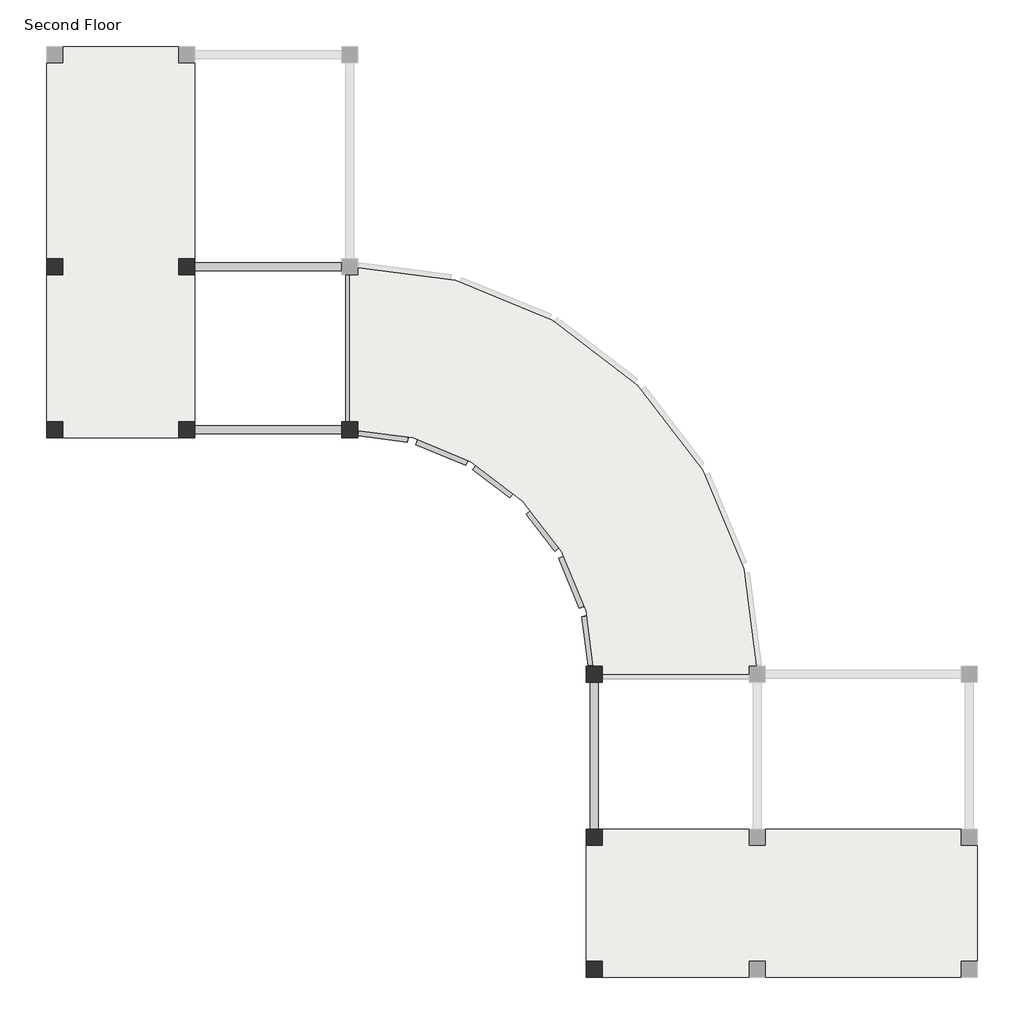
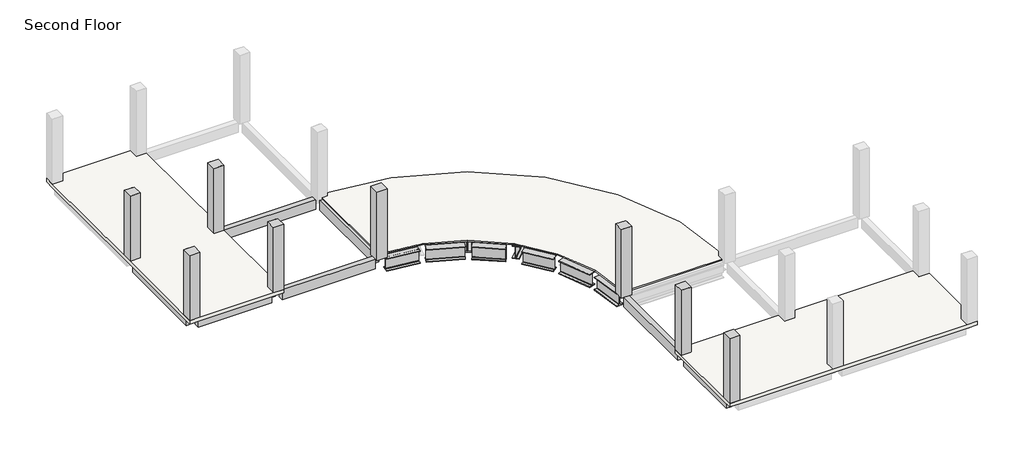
# One storey, part 1 of 2: 18 beams, 16 columns, 3 slabs.
"""IFC4 building model written with IfcOpenShell, lengths in millimetres."""

from ifc_helpers import new_model, si_unit, frame, origin, place, context, project, spatial, polyline, outline, extrude, faceted_brep, transform, mapped, element, save
from components import w760x350_12c19f72, w760x350_7ec89315, w760x350_d8cf7d22, w760x350_981adb13, w760x350_e8c7bbcb, w760x350_b2b244ea, w760x350_d152c47d, w760x350_c276092f

model = new_model("IFC4")

# Units and contexts
model_context = context("Model", 3, world=origin())
ifc_project = project(units=[si_unit("LENGTHUNIT", "METRE", prefix="MILLI")], contexts=[model_context])

# Site, building, storey
site = spatial("IfcSite", under=ifc_project)
building = spatial("IfcBuilding", under=site)
storey = spatial("IfcBuildingStorey", under=building, Name="Second Floor", Elevation=3048.0)

# Beams
placement = place(None, origin())
element("IfcBeam", 1, ObjectType="M_Concrete-Rectangular Beam : 300 x 600mm", at=placement, inside=storey, context=model_context, shape_type="SweptSolid", body=[
    extrude(outline(polyline([(-16304.9035319, -3812.8363965), (-16304.9035319, -3512.8363965), (-10808.9035319, -3512.8363965), (-10808.9035319, -3812.8363965), (-16304.9035319, -3812.8363965)])), frame((0.0, 0.0, 2448.0), z_axis=(0.0, 0.0, 1.0), x_axis=(1.0, 0.0, 0.0)), (0.0, 0.0, 1.0), 600.0),
])
element("IfcBeam", 2, ObjectType="M_Concrete-Rectangular Beam : 300 x 600mm", at=placement, inside=storey, context=model_context, shape_type="SweptSolid", body=[
    extrude(outline(polyline([(-21244.300634, -3812.8363965), (-21244.300634, -3512.8363965), (-16904.9035319, -3512.8363965), (-16904.9035319, -3812.8363965), (-21244.300634, -3812.8363965)])), frame((0.0, 0.0, 2448.0), z_axis=(0.0, 0.0, 1.0), x_axis=(1.0, 0.0, 0.0)), (0.0, 0.0, 1.0), 510.0),
])
element("IfcBeam", 3, ObjectType="M_Concrete-Rectangular Beam : 300 x 600mm", at=placement, inside=storey, context=model_context, shape_type="SweptSolid", body=[
    extrude(outline(polyline([(-16304.9035319, -9908.8363965), (-16304.9035319, -9608.8363965), (-10808.9035319, -9608.8363965), (-10808.9035319, -9908.8363965), (-16304.9035319, -9908.8363965)])), frame((0.0, 0.0, 2448.0), z_axis=(0.0, 0.0, 1.0), x_axis=(1.0, 0.0, 0.0)), (0.0, 0.0, 1.0), 600.0),
])
element("IfcBeam", 4, ObjectType="M_Concrete-Rectangular Beam : 300 x 600mm", at=placement, inside=storey, context=model_context, shape_type="SweptSolid", body=[
    extrude(outline(polyline([(-21244.300634, -9908.8363965), (-21244.300634, -9608.8363965), (-16904.9035319, -9608.8363965), (-16904.9035319, -9908.8363965), (-21244.300634, -9908.8363965)])), frame((0.0, 0.0, 2448.0), z_axis=(0.0, 0.0, 1.0), x_axis=(1.0, 0.0, 0.0)), (0.0, 0.0, 1.0), 510.0),
])
element("IfcBeam", 5, ObjectType="M_Concrete-Rectangular Beam : 300 x 600mm", at=placement, inside=storey, context=model_context, shape_type="SweptSolid", body=[
    extrude(outline(polyline([(-21394.300634, -9458.8363965), (-21694.300634, -9458.8363965), (-21694.300634, -3962.8363965), (-21394.300634, -3962.8363965), (-21394.300634, -9458.8363965)])), frame((0.0, 0.0, 2448.0), z_axis=(0.0, 0.0, 1.0), x_axis=(1.0, 0.0, 0.0)), (0.0, 0.0, 1.0), 510.0),
])
element("IfcBeam", 6, ObjectType="M_Concrete-Rectangular Beam : 300 x 600mm", at=placement, inside=storey, context=model_context, shape_type="SweptSolid", body=[
    extrude(outline(polyline([(-16454.9035319, -9458.8363965), (-16754.9035319, -9458.8363965), (-16754.9035319, -3962.8363965), (-16454.9035319, -3962.8363965), (-16454.9035319, -9458.8363965)])), frame((0.0, 0.0, 2448.0), z_axis=(0.0, 0.0, 1.0), x_axis=(1.0, 0.0, 0.0)), (0.0, 0.0, 1.0), 510.0),
])
element("IfcBeam", 7, ObjectType="M_Concrete-Rectangular Beam : 300 x 600mm", at=placement, inside=storey, context=model_context, shape_type="SweptSolid", body=[
    extrude(outline(polyline([(-10358.9035319, -9458.8363965), (-10658.9035319, -9458.8363965), (-10658.9035319, -3962.8363965), (-10358.9035319, -3962.8363965), (-10358.9035319, -9458.8363965)])), frame((0.0, 0.0, 2448.0), z_axis=(0.0, 0.0, 1.0), x_axis=(1.0, 0.0, 0.0)), (0.0, 0.0, 1.0), 600.0),
])
element("IfcBeam", 8, ObjectType="M_Concrete-Rectangular Beam : 300 x 600mm", at=placement, inside=storey, context=model_context, shape_type="SweptSolid", body=[
    extrude(outline(polyline([(-1214.9035319, -24698.8363965), (-1514.9035319, -24698.8363965), (-1514.9035319, -19202.8363965), (-1214.9035319, -19202.8363965), (-1214.9035319, -24698.8363965)])), frame((0.0, 0.0, 2448.0), z_axis=(0.0, 0.0, 1.0), x_axis=(1.0, 0.0, 0.0)), (0.0, 0.0, 1.0), 600.0),
])
element("IfcBeam", 9, ObjectType="M_Concrete-Rectangular Beam : 300 x 600mm", at=placement, inside=storey, context=model_context, shape_type="SweptSolid", body=[
    extrude(outline(polyline([(-1214.9035319, -29638.2334986), (-1514.9035319, -29638.2334986), (-1514.9035319, -25298.8363965), (-1214.9035319, -25298.8363965), (-1214.9035319, -29638.2334986)])), frame((0.0, 0.0, 2448.0), z_axis=(0.0, 0.0, 1.0), x_axis=(1.0, 0.0, 0.0)), (0.0, 0.0, 1.0), 510.0),
])
w760x350_shape = w760x350_12c19f72(model_context)
element("IfcBeam", 10, ObjectType="M_W-Wide Flange : W760X350", at=placement, inside=storey, context=model_context, shape_type="MappedRepresentation", body=[
    mapped(w760x350_shape, transform((-5016.7075479, -11695.182511, 2523.5), x_axis=(-0.7953971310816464, 0.6060886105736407, 0.0), y_axis=(-0.6060886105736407, -0.7953971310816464, 0.0), z_axis=(0.0, 0.0, 1.0))),
])
w760x350_2_shape = w760x350_7ec89315(model_context)
element("IfcBeam", 11, ObjectType="M_W-Wide Flange : W760X350", at=placement, inside=storey, context=model_context, shape_type="MappedRepresentation", body=[
    mapped(w760x350_2_shape, transform((-7066.2790773, -10511.8618368, 2523.5), x_axis=(-0.9251619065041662, 0.37957271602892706, 0.0), y_axis=(-0.37957271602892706, -0.9251619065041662, 0.0), z_axis=(0.0, 0.0, 1.0))),
])
w760x350_3_shape = w760x350_d8cf7d22(model_context)
element("IfcBeam", 12, ObjectType="M_W-Wide Flange : W760X350", at=placement, inside=storey, context=model_context, shape_type="MappedRepresentation", body=[
    mapped(w760x350_3_shape, transform((-9325.5828576, -9914.6235187, 2523.5), x_axis=(-0.99144486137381, 0.13052619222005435, 0.0), y_axis=(-0.13052619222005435, -0.99144486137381, 0.0), z_axis=(0.0, 0.0, 1.0))),
])
w760x350_4_shape = w760x350_981adb13(model_context)
element("IfcBeam", 13, ObjectType="M_W-Wide Flange : W760X350", at=placement, inside=storey, context=model_context, shape_type="MappedRepresentation", body=[
    mapped(w760x350_4_shape, transform((-1520.6906541, -17719.5157223, 2523.5), x_axis=(-0.1305261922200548, 0.99144486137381, 0.0), y_axis=(-0.99144486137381, -0.1305261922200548, 0.0), z_axis=(0.0, 0.0, 1.0))),
])
element("IfcBeam", 14, ObjectType="M_W-Wide Flange : W760X350", at=placement, inside=storey, context=model_context, shape_type="MappedRepresentation", body=[
    mapped(w760x350_4_shape, transform((-9325.5828576, -9914.6235187, 2523.5), x_axis=(0.9914448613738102, -0.1305261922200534, 0.0), y_axis=(0.1305261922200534, 0.9914448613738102, 0.0), z_axis=(0.0, 0.0, 1.0))),
])
w760x350_5_shape = w760x350_e8c7bbcb(model_context)
element("IfcBeam", 15, ObjectType="M_W-Wide Flange : W760X350", at=placement, inside=storey, context=model_context, shape_type="MappedRepresentation", body=[
    mapped(w760x350_5_shape, transform((-3316.5431822, -13383.9441929, 2523.5), x_axis=(-0.6087614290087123, 0.7933533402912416, 0.0), y_axis=(-0.7933533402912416, -0.6087614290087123, 0.0), z_axis=(0.0, 0.0, 1.0))),
])
w760x350_6_shape = w760x350_b2b244ea(model_context)
element("IfcBeam", 16, ObjectType="M_W-Wide Flange : W760X350", at=placement, inside=storey, context=model_context, shape_type="MappedRepresentation", body=[
    mapped(w760x350_6_shape, transform((-2133.222508, -15433.5157223, 2523.5), x_axis=(-0.38268343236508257, 0.9238795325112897, 0.0), y_axis=(-0.9238795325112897, -0.38268343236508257, 0.0), z_axis=(0.0, 0.0, 1.0))),
])
w760x350_7_shape = w760x350_d152c47d(model_context)
element("IfcBeam", 17, ObjectType="M_W-Wide Flange : W760X350", at=placement, inside=storey, context=model_context, shape_type="MappedRepresentation", body=[
    mapped(w760x350_7_shape, transform((-4464.9452009, -8311.3279993, 2523.5), x_axis=(0.5000000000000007, 0.8660254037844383, 0.0), y_axis=(-0.8660254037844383, 0.5000000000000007, 0.0), z_axis=(0.0, 0.0, 1.0))),
])
w760x350_8_shape = w760x350_c276092f(model_context)
element("IfcBeam", 18, ObjectType="M_W-Wide Flange : W760X350", at=placement, inside=storey, context=model_context, shape_type="MappedRepresentation", body=[
    mapped(w760x350_8_shape, transform((-1887.8576556, -10281.7905203, 2523.5), x_axis=(0.7071067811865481, 0.7071067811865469, 0.0), y_axis=(-0.7071067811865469, 0.7071067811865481, 0.0), z_axis=(0.0, 0.0, 1.0))),
])

# Columns
element("IfcColumn", 19, ObjectType="M_Concrete-Rectangular-Column : 600 x 600mm", at=placement, inside=storey, context=model_context, shape_type="SweptSolid", body=[
    extrude(outline(polyline([(-21844.300634, -10058.8363965), (-21844.300634, -9458.8363965), (-21244.300634, -9458.8363965), (-21244.300634, -10058.8363965), (-21844.300634, -10058.8363965)])), frame((0.0, 0.0, 3168.0), z_axis=(0.0, 0.0, 1.0), x_axis=(1.0, 0.0, 0.0)), (0.0, 0.0, 1.0), 4057.0),
])
element("IfcColumn", 20, ObjectType="M_Concrete-Rectangular-Column : 600 x 600mm", at=placement, inside=storey, context=model_context, shape_type="SweptSolid", body=[
    extrude(outline(polyline([(-21844.300634, -3962.8363965), (-21844.300634, -3362.8363965), (-21244.300634, -3362.8363965), (-21244.300634, -3962.8363965), (-21844.300634, -3962.8363965)])), frame((0.0, 0.0, 3168.0), z_axis=(0.0, 0.0, 1.0), x_axis=(1.0, 0.0, 0.0)), (0.0, 0.0, 1.0), 4057.0),
])
element("IfcColumn", 21, ObjectType="M_Concrete-Rectangular-Column : 600 x 600mm", at=placement, inside=storey, context=model_context, shape_type="SweptSolid", body=[
    extrude(outline(polyline([(-16904.9035319, -10058.8363965), (-16904.9035319, -9458.8363965), (-16304.9035319, -9458.8363965), (-16304.9035319, -10058.8363965), (-16904.9035319, -10058.8363965)])), frame((0.0, 0.0, 3168.0), z_axis=(0.0, 0.0, 1.0), x_axis=(1.0, 0.0, 0.0)), (0.0, 0.0, 1.0), 4057.0),
])
element("IfcColumn", 22, ObjectType="M_Concrete-Rectangular-Column : 600 x 600mm", at=placement, inside=storey, context=model_context, shape_type="SweptSolid", body=[
    extrude(outline(polyline([(-16904.9035319, -3962.8363965), (-16904.9035319, -3362.8363965), (-16304.9035319, -3362.8363965), (-16304.9035319, -3962.8363965), (-16904.9035319, -3962.8363965)])), frame((0.0, 0.0, 3168.0), z_axis=(0.0, 0.0, 1.0), x_axis=(1.0, 0.0, 0.0)), (0.0, 0.0, 1.0), 4057.0),
])
element("IfcColumn", 23, ObjectType="M_Concrete-Rectangular-Column : 600 x 600mm", at=placement, inside=storey, context=model_context, shape_type="Brep", body=[
    faceted_brep([(-10808.9035319, -10058.8363965, 3048.0), (-10808.9035319, -9458.8363965, 3048.0), (-10208.9035319, -9458.8363965, 3048.0), (-10208.9035319, -10058.8363965, 3048.0), (-10808.9035319, -10058.8363965, 7315.0), (-10808.9035319, -9458.8363965, 7315.0), (-10208.9035319, -9458.8363965, 7315.0), (-10208.9035319, -9458.8363965, 3168.0), (-10508.9035319, -9458.8363965, 3168.0), (-10508.9035319, -9458.8363965, 3093.0), (-10208.9035319, -9458.8363965, 3093.0), (-10208.9035319, -9798.3321458, 3093.0), (-10208.9035319, -9798.3321458, 3168.0), (-10208.9035319, -10058.8363965, 7315.0), (-10508.9035319, -9758.8363965, 3093.0), (-10508.9035319, -9758.8363965, 3168.0)], [[[0, 1, 2, 3]], [[1, 0, 4, 5]], [[2, 1, 5, 6, 7, 8, 9, 10]], [[3, 2, 10, 11, 12, 7, 6, 13]], [[0, 3, 13, 4]], [[5, 4, 13, 6]], [[9, 14, 11, 10]], [[12, 15, 8, 7]], [[14, 15, 12, 11]], [[15, 14, 9, 8]]]),
])
element("IfcColumn", 24, ObjectType="M_Concrete-Rectangular-Column : 600 x 600mm", at=placement, inside=storey, context=model_context, shape_type="Brep", body=[
    faceted_brep([(-21844.300634, -10058.8363965, 7225.0), (-21844.300634, -9458.8363965, 7225.0), (-21844.300634, -9458.8363965, 3168.0), (-21844.300634, -10058.8363965, 3168.0), (-21694.300634, -9458.8363965, 7225.0), (-21394.300634, -9458.8363965, 7225.0), (-21244.300634, -9458.8363965, 7225.0), (-21244.300634, -9458.8363965, 3168.0), (-21244.300634, -9608.8363965, 7225.0), (-21244.300634, -9908.8363965, 7225.0), (-21244.300634, -10058.8363965, 7225.0), (-21244.300634, -10058.8363965, 3168.0)], [[[0, 1, 2, 3]], [[1, 4, 5, 6, 7, 2]], [[6, 8, 9, 10, 11, 7]], [[10, 0, 3, 11]], [[1, 0, 10, 9, 8, 6, 5, 4]], [[3, 2, 7, 11]]]),
])
element("IfcColumn", 25, ObjectType="M_Concrete-Rectangular-Column : 600 x 600mm", at=placement, inside=storey, context=model_context, shape_type="Brep", body=[
    faceted_brep([(-21844.300634, -3962.8363965, 7225.0), (-21844.300634, -3362.8363965, 7225.0), (-21844.300634, -3362.8363965, 3168.0), (-21844.300634, -3962.8363965, 3168.0), (-21694.300634, -3362.8363965, 7225.0), (-21394.300634, -3362.8363965, 7225.0), (-21244.300634, -3362.8363965, 7225.0), (-21244.300634, -3362.8363965, 3168.0), (-21244.300634, -3512.8363965, 7225.0), (-21244.300634, -3812.8363965, 7225.0), (-21244.300634, -3962.8363965, 7225.0), (-21244.300634, -3962.8363965, 3168.0), (-21394.300634, -3962.8363965, 7225.0), (-21694.300634, -3962.8363965, 7225.0)], [[[0, 1, 2, 3]], [[1, 4, 5, 6, 7, 2]], [[6, 8, 9, 10, 11, 7]], [[10, 12, 13, 0, 3, 11]], [[1, 0, 13, 12, 10, 9, 8, 6, 5, 4]], [[3, 2, 7, 11]]]),
])
element("IfcColumn", 26, ObjectType="M_Concrete-Rectangular-Column : 600 x 600mm", at=placement, inside=storey, context=model_context, shape_type="Brep", body=[
    faceted_brep([(-16904.9035319, -10058.8363965, 7225.0), (-16904.9035319, -9908.8363965, 7225.0), (-16904.9035319, -9608.8363965, 7225.0), (-16904.9035319, -9458.8363965, 7225.0), (-16904.9035319, -9458.8363965, 3168.0), (-16904.9035319, -10058.8363965, 3168.0), (-16754.9035319, -9458.8363965, 7225.0), (-16454.9035319, -9458.8363965, 7225.0), (-16304.9035319, -9458.8363965, 7225.0), (-16304.9035319, -9458.8363965, 3168.0), (-16304.9035319, -10058.8363965, 7225.0), (-16304.9035319, -10058.8363965, 3168.0)], [[[0, 1, 2, 3, 4, 5]], [[3, 6, 7, 8, 9, 4]], [[8, 10, 11, 9]], [[10, 0, 5, 11]], [[3, 2, 1, 0, 10, 8, 7, 6]], [[5, 4, 9, 11]]]),
])
element("IfcColumn", 27, ObjectType="M_Concrete-Rectangular-Column : 600 x 600mm", at=placement, inside=storey, context=model_context, shape_type="Brep", body=[
    faceted_brep([(-16904.9035319, -3962.8363965, 7225.0), (-16904.9035319, -3812.8363965, 7225.0), (-16904.9035319, -3512.8363965, 7225.0), (-16904.9035319, -3362.8363965, 7225.0), (-16904.9035319, -3362.8363965, 3168.0), (-16904.9035319, -3962.8363965, 3168.0), (-16754.9035319, -3362.8363965, 7225.0), (-16454.9035319, -3362.8363965, 7225.0), (-16304.9035319, -3362.8363965, 7225.0), (-16304.9035319, -3362.8363965, 3168.0), (-16304.9035319, -3962.8363965, 7225.0), (-16304.9035319, -3962.8363965, 3168.0), (-16454.9035319, -3962.8363965, 7225.0), (-16754.9035319, -3962.8363965, 7225.0)], [[[0, 1, 2, 3, 4, 5]], [[3, 6, 7, 8, 9, 4]], [[8, 10, 11, 9]], [[10, 12, 13, 0, 5, 11]], [[3, 2, 1, 0, 13, 12, 10, 8, 7, 6]], [[5, 4, 9, 11]]]),
])
element("IfcColumn", 28, ObjectType="M_Concrete-Rectangular-Column : 600 x 600mm", at=placement, inside=storey, context=model_context, shape_type="Brep", body=[
    faceted_brep([(-10808.9035319, -10058.8363965, 3048.0), (-10808.9035319, -9458.8363965, 3048.0), (-10208.9035319, -9458.8363965, 3048.0), (-10208.9035319, -10058.8363965, 3048.0), (-10808.9035319, -10058.8363965, 7315.0), (-10808.9035319, -9908.8363965, 7315.0), (-10808.9035319, -9608.8363965, 7315.0), (-10808.9035319, -9458.8363965, 7315.0), (-10658.9035319, -9458.8363965, 7315.0), (-10358.9035319, -9458.8363965, 7315.0), (-10208.9035319, -9458.8363965, 7315.0), (-10208.9035319, -9458.8363965, 3168.0), (-10508.9035319, -9458.8363965, 3168.0), (-10508.9035319, -9458.8363965, 3093.0), (-10208.9035319, -9458.8363965, 3093.0), (-10208.9035319, -9798.3321458, 3093.0), (-10208.9035319, -9798.3321458, 3168.0), (-10208.9035319, -10058.8363965, 7315.0), (-10508.9035319, -9758.8363965, 3093.0), (-10508.9035319, -9758.8363965, 3168.0)], [[[0, 1, 2, 3]], [[1, 0, 4, 5, 6, 7]], [[2, 1, 7, 8, 9, 10, 11, 12, 13, 14]], [[3, 2, 14, 15, 16, 11, 10, 17]], [[0, 3, 17, 4]], [[7, 6, 5, 4, 17, 10, 9, 8]], [[13, 18, 15, 14]], [[16, 19, 12, 11]], [[18, 19, 16, 15]], [[19, 18, 13, 12]]]),
])
element("IfcColumn", 29, ObjectType="M_Concrete-Rectangular-Column : 600 x 600mm", at=placement, inside=storey, context=model_context, shape_type="SweptSolid", body=[
    extrude(outline(polyline([(-1064.9035319, -30238.2334986), (-1664.9035319, -30238.2334986), (-1664.9035319, -29638.2334986), (-1064.9035319, -29638.2334986), (-1064.9035319, -30238.2334986)])), frame((0.0, 0.0, 3168.0), z_axis=(0.0, 0.0, 1.0), x_axis=(1.0, 0.0, 0.0)), (0.0, 0.0, 1.0), 4057.0),
])
element("IfcColumn", 30, ObjectType="M_Concrete-Rectangular-Column : 600 x 600mm", at=placement, inside=storey, context=model_context, shape_type="SweptSolid", body=[
    extrude(outline(polyline([(-1064.9035319, -25298.8363965), (-1664.9035319, -25298.8363965), (-1664.9035319, -24698.8363965), (-1064.9035319, -24698.8363965), (-1064.9035319, -25298.8363965)])), frame((0.0, 0.0, 3168.0), z_axis=(0.0, 0.0, 1.0), x_axis=(1.0, 0.0, 0.0)), (0.0, 0.0, 1.0), 4057.0),
])
element("IfcColumn", 31, ObjectType="M_Concrete-Rectangular-Column : 600 x 600mm", at=placement, inside=storey, context=model_context, shape_type="Brep", body=[
    faceted_brep([(-1064.9035319, -19202.8363965, 3048.0), (-1664.9035319, -19202.8363965, 3048.0), (-1664.9035319, -18602.8363965, 3048.0), (-1064.9035319, -18602.8363965, 3048.0), (-1064.9035319, -19202.8363965, 7315.0), (-1664.9035319, -19202.8363965, 7315.0), (-1064.9035319, -18602.8363965, 3093.0), (-1064.9035319, -18902.8363965, 3093.0), (-1064.9035319, -18902.8363965, 3168.0), (-1064.9035319, -18602.8363965, 3168.0), (-1064.9035319, -18602.8363965, 7315.0), (-1664.9035319, -18602.8363965, 7315.0), (-1404.3992811, -18602.8363965, 3168.0), (-1404.3992811, -18602.8363965, 3093.0), (-1364.9035319, -18902.8363965, 3093.0), (-1364.9035319, -18902.8363965, 3168.0)], [[[0, 1, 2, 3]], [[1, 0, 4, 5]], [[0, 3, 6, 7, 8, 9, 10, 4]], [[3, 2, 11, 10, 9, 12, 13, 6]], [[2, 1, 5, 11]], [[5, 4, 10, 11]], [[13, 14, 7, 6]], [[8, 15, 12, 9]], [[14, 15, 8, 7]], [[15, 14, 13, 12]]]),
])
element("IfcColumn", 32, ObjectType="M_Concrete-Rectangular-Column : 600 x 600mm", at=placement, inside=storey, context=model_context, shape_type="Brep", body=[
    faceted_brep([(-1064.9035319, -30238.2334986, 7225.0), (-1664.9035319, -30238.2334986, 7225.0), (-1664.9035319, -30238.2334986, 3168.0), (-1064.9035319, -30238.2334986, 3168.0), (-1064.9035319, -29638.2334986, 7225.0), (-1064.9035319, -29788.2334986, 7225.0), (-1064.9035319, -30088.2334986, 7225.0), (-1064.9035319, -29638.2334986, 3168.0), (-1664.9035319, -29638.2334986, 7225.0), (-1514.9035319, -29638.2334986, 7225.0), (-1214.9035319, -29638.2334986, 7225.0), (-1664.9035319, -29638.2334986, 3168.0)], [[[0, 1, 2, 3]], [[4, 5, 6, 0, 3, 7]], [[8, 9, 10, 4, 7, 11]], [[1, 8, 11, 2]], [[1, 0, 6, 5, 4, 10, 9, 8]], [[3, 2, 11, 7]]]),
])
element("IfcColumn", 33, ObjectType="M_Concrete-Rectangular-Column : 600 x 600mm", at=placement, inside=storey, context=model_context, shape_type="Brep", body=[
    faceted_brep([(-1064.9035319, -25298.8363965, 7225.0), (-1214.9035319, -25298.8363965, 7225.0), (-1514.9035319, -25298.8363965, 7225.0), (-1664.9035319, -25298.8363965, 7225.0), (-1664.9035319, -25298.8363965, 3168.0), (-1064.9035319, -25298.8363965, 3168.0), (-1064.9035319, -24698.8363965, 7225.0), (-1064.9035319, -24848.8363965, 7225.0), (-1064.9035319, -25148.8363965, 7225.0), (-1064.9035319, -24698.8363965, 3168.0), (-1664.9035319, -24698.8363965, 7225.0), (-1664.9035319, -24698.8363965, 3168.0)], [[[0, 1, 2, 3, 4, 5]], [[6, 7, 8, 0, 5, 9]], [[10, 6, 9, 11]], [[3, 10, 11, 4]], [[3, 2, 1, 0, 8, 7, 6, 10]], [[5, 4, 11, 9]]]),
])
element("IfcColumn", 34, ObjectType="M_Concrete-Rectangular-Column : 600 x 600mm", at=placement, inside=storey, context=model_context, shape_type="Brep", body=[
    faceted_brep([(-1064.9035319, -19202.8363965, 3048.0), (-1664.9035319, -19202.8363965, 3048.0), (-1664.9035319, -18602.8363965, 3048.0), (-1064.9035319, -18602.8363965, 3048.0), (-1064.9035319, -19202.8363965, 7315.0), (-1214.9035319, -19202.8363965, 7315.0), (-1514.9035319, -19202.8363965, 7315.0), (-1664.9035319, -19202.8363965, 7315.0), (-1064.9035319, -18602.8363965, 3093.0), (-1064.9035319, -18902.8363965, 3093.0), (-1064.9035319, -18902.8363965, 3168.0), (-1064.9035319, -18602.8363965, 3168.0), (-1064.9035319, -18602.8363965, 7315.0), (-1064.9035319, -18752.8363965, 7315.0), (-1064.9035319, -19052.8363965, 7315.0), (-1664.9035319, -18602.8363965, 7315.0), (-1404.3992811, -18602.8363965, 3168.0), (-1404.3992811, -18602.8363965, 3093.0), (-1364.9035319, -18902.8363965, 3093.0), (-1364.9035319, -18902.8363965, 3168.0)], [[[0, 1, 2, 3]], [[1, 0, 4, 5, 6, 7]], [[0, 3, 8, 9, 10, 11, 12, 13, 14, 4]], [[3, 2, 15, 12, 11, 16, 17, 8]], [[2, 1, 7, 15]], [[7, 6, 5, 4, 14, 13, 12, 15]], [[17, 18, 9, 8]], [[10, 19, 16, 11]], [[18, 19, 10, 9]], [[19, 18, 17, 16]]]),
])

# Slabs
element("IfcSlab", 35, ObjectType="160mm Concrete With 50mm Metal Deck", at=placement, inside=storey, context=model_context, shape_type="Brep", body=[
    faceted_brep([(-16304.9035319, 4562.1636035, 2958.0), (-16304.9035319, 3962.1636035, 2958.0), (-16304.9035319, -3362.8363965, 2958.0), (-16304.9035319, -3962.8363965, 2958.0), (-16304.9035319, -9458.8363965, 2958.0), (-16304.9035319, -10058.8363965, 2958.0), (-16904.9035319, -10058.8363965, 2958.0), (-21244.300634, -10058.8363965, 2958.0), (-21844.300634, -10058.8363965, 2958.0), (-21844.300634, -9458.8363965, 2958.0), (-21844.300634, -3962.8363965, 2958.0), (-21844.300634, -3362.8363965, 2958.0), (-21844.300634, 3962.1636035, 2958.0), (-21844.300634, 4562.1636035, 2958.0), (-21244.300634, 4562.1636035, 2958.0), (-16904.9035319, 4562.1636035, 2958.0), (-16304.9035319, 4562.1636035, 3168.0), (-16904.9035319, 4562.1636035, 3168.0), (-21244.300634, 4562.1636035, 3168.0), (-21844.300634, 4562.1636035, 3168.0), (-21844.300634, 3962.1636035, 3168.0), (-21844.300634, -3362.8363965, 3168.0), (-21844.300634, -3962.8363965, 3168.0), (-21844.300634, -9458.8363965, 3168.0), (-21844.300634, -10058.8363965, 3168.0), (-21244.300634, -10058.8363965, 3168.0), (-16904.9035319, -10058.8363965, 3168.0), (-16304.9035319, -10058.8363965, 3168.0), (-16304.9035319, -9458.8363965, 3168.0), (-16304.9035319, -3962.8363965, 3168.0), (-16304.9035319, -3362.8363965, 3168.0), (-16304.9035319, 3962.1636035, 3168.0)], [[[0, 1, 2, 3, 4, 5, 6, 7, 8, 9, 10, 11, 12, 13, 14, 15]], [[16, 17, 18, 19, 20, 21, 22, 23, 24, 25, 26, 27, 28, 29, 30, 31]], [[5, 4, 3, 2, 1, 0, 16, 31, 30, 29, 28, 27]], [[8, 7, 6, 5, 27, 26, 25, 24]], [[13, 12, 11, 10, 9, 8, 24, 23, 22, 21, 20, 19]], [[0, 15, 14, 13, 19, 18, 17, 16]]]),
])
element("IfcSlab", 36, ObjectType="160mm Concrete With 50mm Metal Deck", at=placement, inside=storey, context=model_context, shape_type="Brep", body=[
    faceted_brep([(12956.0964681, -24698.8363965, 2958.0), (12956.0964681, -25298.8363965, 2958.0), (12956.0964681, -29638.2334986, 2958.0), (12956.0964681, -30238.2334986, 2958.0), (12356.0964681, -30238.2334986, 2958.0), (5031.0964681, -30238.2334986, 2958.0), (4431.0964681, -30238.2334986, 2958.0), (-1064.9035319, -30238.2334986, 2958.0), (-1664.9035319, -30238.2334986, 2958.0), (-1664.9035319, -29638.2334986, 2958.0), (-1664.9035319, -25298.8363965, 2958.0), (-1664.9035319, -24698.8363965, 2958.0), (-1064.9035319, -24698.8363965, 2958.0), (4431.0964681, -24698.8363965, 2958.0), (5031.0964681, -24698.8363965, 2958.0), (12356.0964681, -24698.8363965, 2958.0), (12956.0964681, -24698.8363965, 3168.0), (12356.0964681, -24698.8363965, 3168.0), (5031.0964681, -24698.8363965, 3168.0), (4431.0964681, -24698.8363965, 3168.0), (-1064.9035319, -24698.8363965, 3168.0), (-1664.9035319, -24698.8363965, 3168.0), (-1664.9035319, -25298.8363965, 3168.0), (-1664.9035319, -29638.2334986, 3168.0), (-1664.9035319, -30238.2334986, 3168.0), (-1064.9035319, -30238.2334986, 3168.0), (4431.0964681, -30238.2334986, 3168.0), (5031.0964681, -30238.2334986, 3168.0), (12356.0964681, -30238.2334986, 3168.0), (12956.0964681, -30238.2334986, 3168.0), (12956.0964681, -29638.2334986, 3168.0), (12956.0964681, -25298.8363965, 3168.0)], [[[0, 1, 2, 3, 4, 5, 6, 7, 8, 9, 10, 11, 12, 13, 14, 15]], [[16, 17, 18, 19, 20, 21, 22, 23, 24, 25, 26, 27, 28, 29, 30, 31]], [[0, 15, 14, 13, 12, 11, 21, 20, 19, 18, 17, 16]], [[11, 10, 9, 8, 24, 23, 22, 21]], [[8, 7, 6, 5, 4, 3, 29, 28, 27, 26, 25, 24]], [[3, 2, 1, 0, 16, 31, 30, 29]]]),
])
element("IfcSlab", 37, ObjectType="75mm Metal Roof Deck", at=placement, inside=storey, context=model_context, shape_type="Brep", body=[
    faceted_brep([(-10508.9035319, -3662.8363965, 3093.0), (-10208.9035319, -3702.3321458, 3093.0), (-6564.5012845, -4182.1268039, 3093.0), (-2939.5944307, -5669.3429659, 3093.0), (242.5168812, -8094.0957697, 3093.0), (2689.3236218, -11282.8363965, 3093.0), (4211.8060608, -14958.4341491, 3093.0), (4691.6007189, -18602.8363965, 3093.0), (4731.0964681, -18902.8363965, 3093.0), (4431.0964681, -18902.8363965, 3093.0), (-1064.9035319, -18902.8363965, 3093.0), (-1364.9035319, -18902.8363965, 3093.0), (-1404.3992811, -18602.8363965, 3093.0), (-1676.4777763, -16536.1950481, 3093.0), (-2589.9672396, -14330.8363965, 3093.0), (-4043.1191247, -12437.0519893, 3093.0), (-5990.2959711, -10953.3130327, 3093.0), (-8142.2621834, -10070.4106409, 3093.0), (-10208.9035319, -9798.3321458, 3093.0), (-10508.9035319, -9758.8363965, 3093.0), (-10508.9035319, -9458.8363965, 3093.0), (-10508.9035319, -3962.8363965, 3093.0), (-10508.9035319, -3662.8363965, 3168.0), (-10508.9035319, -3962.8363965, 3168.0), (-10508.9035319, -9458.8363965, 3168.0), (-10508.9035319, -9758.8363965, 3168.0), (-10208.9035319, -9798.3321458, 3168.0), (-8142.2621834, -10070.4106409, 3168.0), (-5990.2959711, -10953.3130327, 3168.0), (-4043.1191247, -12437.0519893, 3168.0), (-2589.9672396, -14330.8363965, 3168.0), (-1676.4777763, -16536.1950481, 3168.0), (-1404.3992811, -18602.8363965, 3168.0), (-1364.9035319, -18902.8363965, 3168.0), (-1064.9035319, -18902.8363965, 3168.0), (4431.0964681, -18902.8363965, 3168.0), (4731.0964681, -18902.8363965, 3168.0), (4691.6007189, -18602.8363965, 3168.0), (4211.8060608, -14958.4341491, 3168.0), (2689.3236218, -11282.8363965, 3168.0), (242.5168812, -8094.0957697, 3168.0), (-2939.5944307, -5669.3429659, 3168.0), (-6564.5012845, -4182.1268039, 3168.0), (-10208.9035319, -3702.3321458, 3168.0)], [[[0, 1, 2, 3, 4, 5, 6, 7, 8, 9, 10, 11, 12, 13, 14, 15, 16, 17, 18, 19, 20, 21]], [[22, 23, 24, 25, 26, 27, 28, 29, 30, 31, 32, 33, 34, 35, 36, 37, 38, 39, 40, 41, 42, 43]], [[2, 1, 0, 22, 43, 42]], [[3, 2, 42, 41]], [[4, 3, 41, 40]], [[5, 4, 40, 39]], [[6, 5, 39, 38]], [[8, 7, 6, 38, 37, 36]], [[11, 10, 9, 8, 36, 35, 34, 33]], [[13, 12, 11, 33, 32, 31]], [[14, 13, 31, 30]], [[15, 14, 30, 29]], [[16, 15, 29, 28]], [[17, 16, 28, 27]], [[19, 18, 17, 27, 26, 25]], [[0, 21, 20, 19, 25, 24, 23, 22]]]),
])

save(model, "model.ifc")
